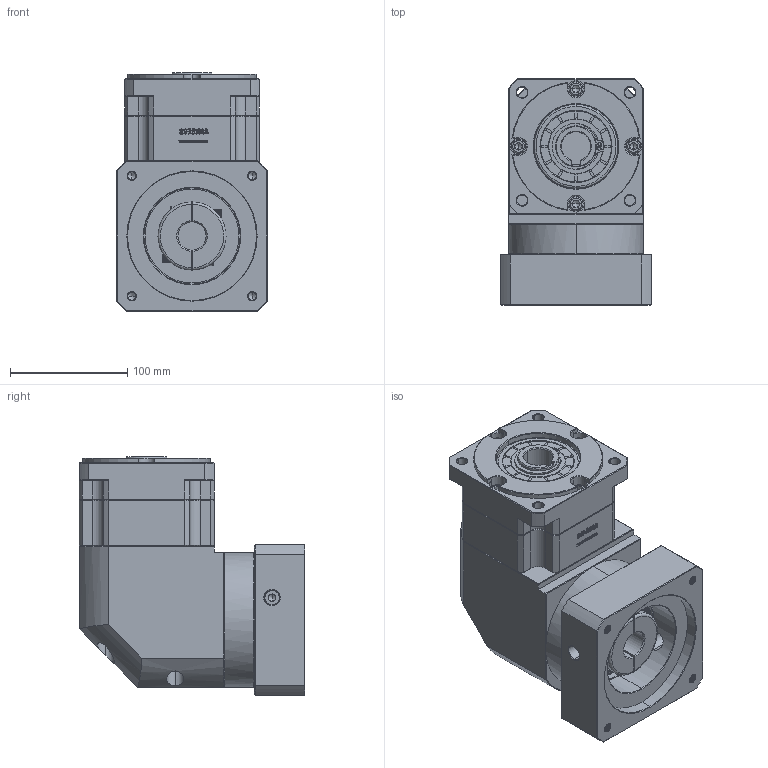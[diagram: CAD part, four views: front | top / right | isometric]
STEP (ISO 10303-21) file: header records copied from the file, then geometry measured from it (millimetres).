
FILE_DESCRIPTION (( 'STEP AP214' ), '1' );
FILE_NAME ('ZBR115A-K25-L1-24-110-145-M8.step', '2023-03-03T05:05:57', ( '' ), ( 'Microsoft' ), 'SwSTEP 2.0', 'SolidWorks 2016', '' );
FILE_SCHEMA (( 'AUTOMOTIVE_DESIGN' ));
Length unit declared in the file: millimetre
Products named in the file (1): ZBR115A-K25-L1-24-110-145-M8
Bounding box: 128 x 192.4 x 203 mm (x, y, z)
Volume: 2994964.3 mm3; surface area: 251990.9 mm2
Topology: 6 solids, 6 shells, 2926 faces, 7776 edges, 4996 vertices
Faces by surface type: plane 1552, bspline 597, cylinder 406, cone 363, torus 8
Entity records: 156413 total; most frequent: CARTESIAN_POINT 56123, ORIENTED_EDGE 15496, DIRECTION 11767, EDGE_CURVE 7748, LINE 5255, VECTOR 5255, VERTEX_POINT 4996, AXIS2_PLACEMENT_3D 3256
